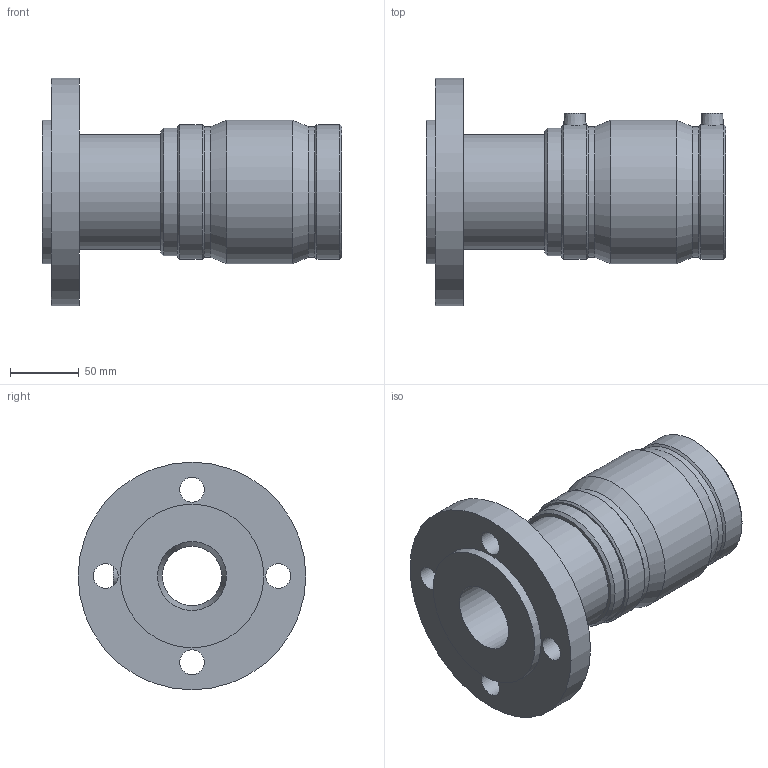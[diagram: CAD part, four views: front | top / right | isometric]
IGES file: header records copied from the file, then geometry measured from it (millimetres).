
Global section: file name: 497704063.ipt; native system: Autodesk Inventor 2015; preprocessor: unknown; author: KIM; date: 20180502.162025; units: millimetre
Bounding box: 217.04 x 165 x 165 mm (x, y, z)
Volume: 1351716.3 mm3; surface area: 160890 mm2
Topology: 1 solids, 2 shells, 55 faces, 119 edges, 78 vertices
Faces by surface type: plane 16, revolution 13, cone 13, cylinder 13
Full cylindrical faces by diameter (mm): 4 x2, 63 x2, 83.304 x1, 92.56 x1, 94.827 x2, 97.76 x2, 104 x2, 165 x1
